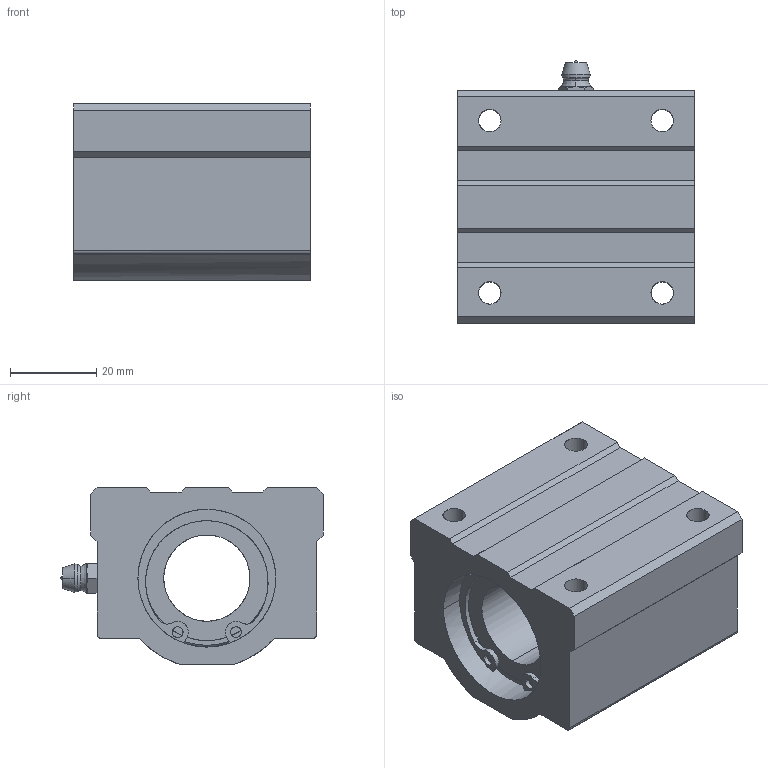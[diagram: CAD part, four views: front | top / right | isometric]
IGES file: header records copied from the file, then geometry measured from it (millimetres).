
Global section: file name: No Iges File Name specified; native system: AutoDesk Inventor R10; preprocessor: AutoDesk Inventor Iges Exporter R10; author: No Author specified; organization: No Organization specified; date: 20101214.143403; units: millimetre
Bounding box: 55 x 60.9 x 41 mm (x, y, z)
Surface area: 20988.6 mm2 (no closed solid volume)
Topology: 0 solids, 0 shells, 134 faces, 912 edges, 908 vertices
Faces by surface type: bspline 134
